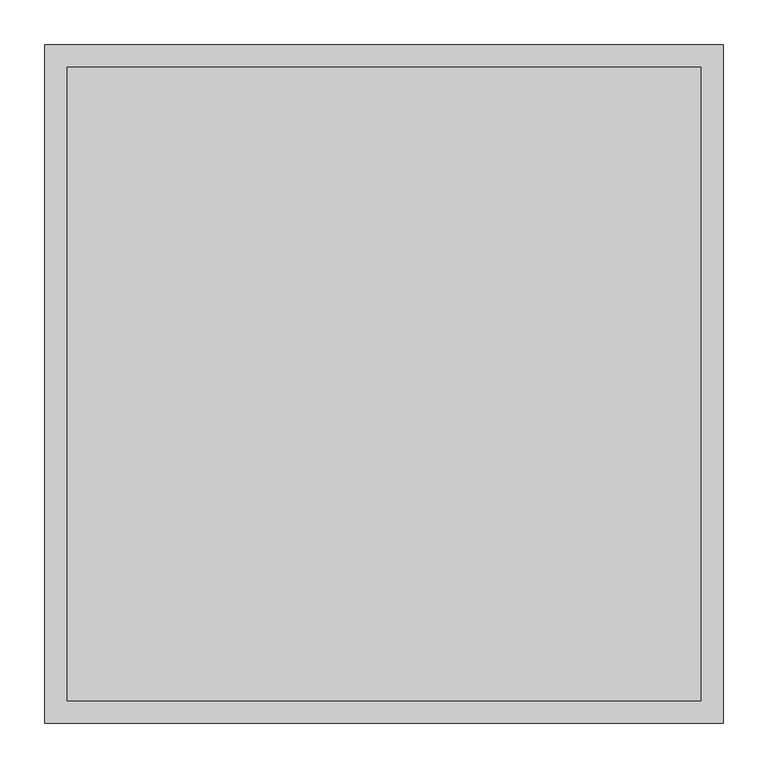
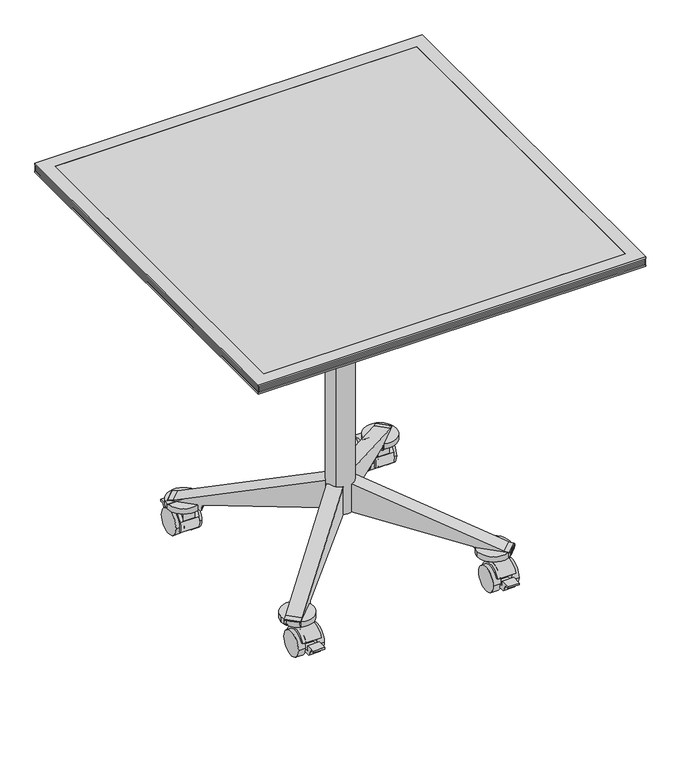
"""IFC4 building model written with IfcOpenShell, lengths in millimetres: furniture geometry, Coalesse_AM_Table_Conference_Ballet_Square : 30L x 30W - Fixed/Caster."""

from ifc_helpers import new_model, si_unit, point, frame, frame_2d, origin, place, context, project, spatial, polyline, circle_curve, trimmed, segment, composite_curve, outline, extrude, faceted_brep, source, transform, mapped, element, save


def furniture_44e23b2c(model_context):
    return source(origin(), model_context, "Body", "SolidModel", [
        extrude(outline(composite_curve([segment(polyline([(-182.4395783, 14.7931869), (-185.3508649, 16.4051117)]), True, "CONTINUOUS"), segment(trimmed(circle_curve(frame_2d((-208.7663144, 24.9907393)), 24.9398531), [point((-185.3508649, 16.4051117))], [point((-231.2540436, 35.7749086))], True, "CARTESIAN"), True, "CONTINUOUS"), segment(polyline([(-231.2540436, 35.7749086), (-234.6796249, 36.8601197)]), True, "CONTINUOUS"), segment(trimmed(circle_curve(frame_2d((-209.4353674, 26.7032164)), 27.2109394), [point((-234.6796249, 36.8601197))], [point((-197.8152878, 51.3082762))], False, "CARTESIAN"), True, "CONTINUOUS"), segment(trimmed(circle_curve(frame_2d((-207.8788336, 25.8930561)), 27.3351124), [point((-197.8152878, 51.3082762))], [point((-182.4395783, 35.8956886))], False, "CARTESIAN"), True, "CONTINUOUS"), segment(trimmed(circle_curve(frame_2d((-209.2741105, 25.3444377)), 28.8343721), [point((-182.4395783, 35.8956886))], [point((-182.4395783, 14.7931869))], False, "CARTESIAN"), True, "CONTINUOUS")], self_intersect=False)), frame((174.0984431, 0.0, 0.0), z_axis=(1.0, 0.0, 0.0), x_axis=(0.0, 1.0, 0.0)), (0.0, 0.0, 1.0), 36.0286787),
        extrude(outline(composite_curve([segment(trimmed(circle_curve(frame_2d((-208.7663144, 24.9907393)), 24.9398531), [point((-233.7061675, 24.9907393))], [point((-183.8264612, 24.9907393))], False, "CARTESIAN"), True, "CONTINUOUS"), segment(trimmed(circle_curve(frame_2d((-208.7663144, 24.9907393)), 24.9398531), [point((-183.8264612, 24.9907393))], [point((-233.7061675, 24.9907393))], False, "CARTESIAN"), True, "CONTINUOUS")], self_intersect=False)), frame((166.2968952, 0.0, 0.0), z_axis=(1.0, 0.0, 0.0), x_axis=(0.0, 1.0, 0.0)), (0.0, 0.0, 1.0), 14.6120158),
        extrude(outline(composite_curve([segment(polyline([(-197.8152878, 63.5225277), (-182.4395783, 63.5225277), (-182.4395783, 35.8956886)]), True, "CONTINUOUS"), segment(trimmed(circle_curve(frame_2d((-209.2741105, 25.3444377)), 28.8343721), [point((-182.4395783, 35.8956886))], [point((-182.4395783, 14.7931869))], False, "CARTESIAN"), True, "CONTINUOUS"), segment(polyline([(-182.4395783, 14.7931869), (-195.904393, 22.2484025), (-198.9802659, 16.6930892)]), True, "CONTINUOUS"), segment(trimmed(circle_curve(frame_2d((-208.672695, 25.0010719)), 12.7658043), [point((-198.9802659, 16.6930892))], [point((-218.9375545, 17.4117096))], False, "CARTESIAN"), True, "CONTINUOUS"), segment(polyline([(-218.9375545, 17.4117096), (-244.706152, 17.4117096), (-253.6776476, 31.7691038), (-260.4030844, 31.7691038), (-260.4030844, 35.1210973), (-241.3530844, 35.1210973), (-241.3530844, 25.0010719), (-222.0637731, 25.0010719), (-219.8001714, 32.1463658), (-234.6796249, 36.8601197)]), True, "CONTINUOUS"), segment(trimmed(circle_curve(frame_2d((-209.4353674, 26.7032164)), 27.2109394), [point((-234.6796249, 36.8601197))], [point((-197.8152878, 51.3082762))], False, "CARTESIAN"), True, "CONTINUOUS"), segment(polyline([(-197.8152878, 51.3082762), (-197.8152878, 63.5225277)]), True, "CONTINUOUS")], self_intersect=False)), frame((179.2633359, 0.0, 0.0), z_axis=(1.0, 0.0, 0.0), x_axis=(0.0, 1.0, 0.0)), (0.0, 0.0, 1.0), 22.3970625),
        extrude(outline(composite_curve([segment(trimmed(circle_curve(frame_2d((-208.7663144, 24.9907393)), 24.9398531), [point((-233.7061675, 24.9907393))], [point((-183.8264612, 24.9907393))], False, "CARTESIAN"), True, "CONTINUOUS"), segment(trimmed(circle_curve(frame_2d((-208.7663144, 24.9907393)), 24.9398531), [point((-183.8264612, 24.9907393))], [point((-233.7061675, 24.9907393))], False, "CARTESIAN"), True, "CONTINUOUS")], self_intersect=False)), frame((203.3322938, 0.0, 0.0), z_axis=(1.0, 0.0, 0.0), x_axis=(0.0, 1.0, 0.0)), (0.0, 0.0, 1.0), 13.7103424),
        extrude(outline(composite_curve([segment(polyline([(-182.4395783, 14.7931869), (-185.3508649, 16.4051117)]), True, "CONTINUOUS"), segment(trimmed(circle_curve(frame_2d((-208.7663144, 24.9907393)), 24.9398531), [point((-185.3508649, 16.4051117))], [point((-231.2540436, 35.7749086))], True, "CARTESIAN"), True, "CONTINUOUS"), segment(polyline([(-231.2540436, 35.7749086), (-234.6796249, 36.8601197)]), True, "CONTINUOUS"), segment(trimmed(circle_curve(frame_2d((-209.4353674, 26.7032164)), 27.2109394), [point((-234.6796249, 36.8601197))], [point((-197.8152878, 51.3082762))], False, "CARTESIAN"), True, "CONTINUOUS"), segment(trimmed(circle_curve(frame_2d((-207.8788336, 25.8930561)), 27.3351124), [point((-197.8152878, 51.3082762))], [point((-182.4395783, 35.8956886))], False, "CARTESIAN"), True, "CONTINUOUS"), segment(trimmed(circle_curve(frame_2d((-209.2741105, 25.3444377)), 28.8343721), [point((-182.4395783, 35.8956886))], [point((-182.4395783, 14.7931869))], False, "CARTESIAN"), True, "CONTINUOUS")], self_intersect=False)), frame((-209.7070094, 0.0, 0.0), z_axis=(1.0, 0.0, 0.0), x_axis=(0.0, 1.0, 0.0)), (0.0, 0.0, 1.0), 36.86129),
        extrude(outline(composite_curve([segment(trimmed(circle_curve(frame_2d((-208.7663144, 24.9907393)), 24.9398531), [point((-233.7061675, 24.9907393))], [point((-183.8264612, 24.9907393))], False, "CARTESIAN"), True, "CONTINUOUS"), segment(trimmed(circle_curve(frame_2d((-208.7663144, 24.9907393)), 24.9398531), [point((-183.8264612, 24.9907393))], [point((-233.7061675, 24.9907393))], False, "CARTESIAN"), True, "CONTINUOUS")], self_intersect=False)), frame((-180.908911, 0.0, 0.0), z_axis=(1.0, 0.0, 0.0), x_axis=(0.0, 1.0, 0.0)), (0.0, 0.0, 1.0), 14.6120158),
        extrude(outline(composite_curve([segment(polyline([(-197.8152878, 63.5225277), (-182.4395783, 63.5225277), (-182.4395783, 35.8956886)]), True, "CONTINUOUS"), segment(trimmed(circle_curve(frame_2d((-209.2741105, 25.3444377)), 28.8343721), [point((-182.4395783, 35.8956886))], [point((-182.4395783, 14.7931869))], False, "CARTESIAN"), True, "CONTINUOUS"), segment(polyline([(-182.4395783, 14.7931869), (-195.904393, 22.2484025), (-198.9802659, 16.6930892)]), True, "CONTINUOUS"), segment(trimmed(circle_curve(frame_2d((-208.672695, 25.0010719)), 12.7658043), [point((-198.9802659, 16.6930892))], [point((-218.9375545, 17.4117096))], False, "CARTESIAN"), True, "CONTINUOUS"), segment(polyline([(-218.9375545, 17.4117096), (-244.706152, 17.4117096), (-253.6776476, 31.7691038), (-260.4030844, 31.7691038), (-260.4030844, 35.1210973), (-241.3530844, 35.1210973), (-241.3530844, 25.0010719), (-222.0637731, 25.0010719), (-219.8001714, 32.1463658), (-234.6796249, 36.8601197)]), True, "CONTINUOUS"), segment(trimmed(circle_curve(frame_2d((-209.4353674, 26.7032164)), 27.2109394), [point((-234.6796249, 36.8601197))], [point((-197.8152878, 51.3082762))], False, "CARTESIAN"), True, "CONTINUOUS"), segment(polyline([(-197.8152878, 51.3082762), (-197.8152878, 63.5225277)]), True, "CONTINUOUS")], self_intersect=False)), frame((-203.3322938, 0.0, 0.0), z_axis=(1.0, 0.0, 0.0), x_axis=(0.0, 1.0, 0.0)), (0.0, 0.0, 1.0), 22.4233828),
        extrude(outline(composite_curve([segment(trimmed(circle_curve(frame_2d((-208.7663144, 24.9907393)), 24.9398531), [point((-233.7061675, 24.9907393))], [point((-183.8264612, 24.9907393))], False, "CARTESIAN"), True, "CONTINUOUS"), segment(trimmed(circle_curve(frame_2d((-208.7663144, 24.9907393)), 24.9398531), [point((-183.8264612, 24.9907393))], [point((-233.7061675, 24.9907393))], False, "CARTESIAN"), True, "CONTINUOUS")], self_intersect=False)), frame((-217.0426362, 0.0, 0.0), z_axis=(1.0, 0.0, 0.0), x_axis=(0.0, 1.0, 0.0)), (0.0, 0.0, 1.0), 13.7103424),
        extrude(outline(composite_curve([segment(polyline([(-37.2834365, 26.9246599), (-26.8661847, 37.3419116)]), True, "CONTINUOUS"), segment(trimmed(circle_curve(frame_2d((0.0745836, 10.4011432)), 38.1), [point((-26.8661847, 37.3419116))], [point((27.015352, 37.3419116))], False, "CARTESIAN"), True, "CONTINUOUS"), segment(polyline([(27.015352, 37.3419116), (38.9313594, 25.4259042)]), True, "CONTINUOUS"), segment(trimmed(circle_curve(frame_2d((13.4893466, -0.0161085)), 35.9804395), [point((38.9313594, 25.4259042))], [point((38.9313594, -25.4581212))], False, "CARTESIAN"), True, "CONTINUOUS"), segment(polyline([(38.9313594, -25.4581212), (27.015352, -37.3741286)]), True, "CONTINUOUS"), segment(trimmed(circle_curve(frame_2d((0.0745836, -10.4333602)), 38.1), [point((27.015352, -37.3741286))], [point((-26.8661847, -37.3741286))], False, "CARTESIAN"), True, "CONTINUOUS"), segment(polyline([(-26.8661847, -37.3741286), (-37.2834365, -26.9568769)]), True, "CONTINUOUS"), segment(trimmed(circle_curve(frame_2d((-10.3426681, -0.0161085)), 38.1), [point((-37.2834365, -26.9568769))], [point((-37.2834365, 26.9246599))], False, "CARTESIAN"), True, "CONTINUOUS")], self_intersect=False)), frame((0.0, 0.0, 607.6784119), z_axis=(0.0, 0.0, 1.0), x_axis=(1.0, 0.0, 0.0)), (0.0, 0.0, 1.0), 50.3081696),
        extrude(outline(composite_curve([segment(polyline([(-81.1409418, 49.3084633), (-49.5692956, 80.8801095)]), True, "CONTINUOUS"), segment(trimmed(circle_curve(frame_2d((0.0, 156.1108358)), 90.0931587), [point((-49.5692956, 80.8801095))], [point((49.871233, 81.0799264))], True, "CARTESIAN"), True, "CONTINUOUS"), segment(polyline([(49.871233, 81.0799264), (81.1309866, 49.8201728)]), True, "CONTINUOUS"), segment(trimmed(circle_curve(frame_2d((153.3620811, 0.0)), 87.7461145), [point((81.1309866, 49.8201728))], [point((81.7629451, -50.7241989))], True, "CARTESIAN"), True, "CONTINUOUS"), segment(polyline([(81.7629451, -50.7241989), (50.5881651, -81.8989789)]), True, "CONTINUOUS"), segment(trimmed(circle_curve(frame_2d((0.0, -154.7295322)), 88.6761069), [point((50.5881651, -81.8989789))], [point((-51.0893198, -82.2496499))], True, "CARTESIAN"), True, "CONTINUOUS"), segment(polyline([(-51.0893198, -82.2496499), (-82.3248918, -51.014078)]), True, "CONTINUOUS"), segment(trimmed(circle_curve(frame_2d((-153.9959305, 0.0)), 87.9725749), [point((-82.3248918, -51.014078))], [point((-81.1409418, 49.3084633))], True, "CARTESIAN"), True, "CONTINUOUS")], self_intersect=False)), frame((0.0, 0.0, 635.3095602), z_axis=(0.0, 0.0, 1.0), x_axis=(1.0, 0.0, 0.0)), (0.0, 0.0, 1.0), 22.6770213),
        extrude(outline(composite_curve([segment(polyline([(113.5341679, 0.0), (115.2899262, -10.0922386)]), True, "CONTINUOUS"), segment(trimmed(circle_curve(frame_2d((109.4715659, -11.1181725)), 5.9081179), [point((115.2899262, -10.0922386))], [point((112.4302147, -16.2321))], False, "CARTESIAN"), True, "CONTINUOUS"), segment(trimmed(circle_curve(frame_2d((-123.0846109, 390.8475551)), 470.2989248), [point((112.4302147, -16.2321))], [point((-41.0580682, -72.2428518))], False, "CARTESIAN"), True, "CONTINUOUS"), segment(trimmed(circle_curve(frame_2d((-123.0846109, 390.8475551)), 470.2989248), [point((-41.0580682, -72.2428518))], [point((-66.3016738, -76.0108568))], False, "CARTESIAN"), True, "CONTINUOUS"), segment(trimmed(circle_curve(frame_2d((-64.5252058, -90.6166359)), 14.7134164), [point((-66.3016738, -76.0108568))], [point((-76.8966336, -82.6521903))], True, "CARTESIAN"), True, "CONTINUOUS"), segment(trimmed(circle_curve(frame_2d((-64.5252058, -90.6166359)), 14.7134164), [point((-76.8966336, -82.6521903))], [point((-79.0128702, -93.1841644))], True, "CARTESIAN"), True, "CONTINUOUS"), segment(trimmed(circle_curve(frame_2d((-82.4193718, -93.7878704)), 3.4595829), [point((-79.0128702, -93.1841644))], [point((-81.5814971, -97.144458))], False, "CARTESIAN"), True, "CONTINUOUS"), segment(polyline([(-81.5814971, -97.144458), (-160.8938241, -97.144458)]), True, "CONTINUOUS"), segment(trimmed(circle_curve(frame_2d((-160.0559494, -93.7878704)), 3.4595829), [point((-160.8938241, -97.144458))], [point((-163.462451, -93.1841644))], False, "CARTESIAN"), True, "CONTINUOUS"), segment(trimmed(circle_curve(frame_2d((-177.9501154, -90.6166359)), 14.7134164), [point((-163.462451, -93.1841644))], [point((-165.5786876, -82.6521903))], True, "CARTESIAN"), True, "CONTINUOUS"), segment(trimmed(circle_curve(frame_2d((-177.9501154, -90.6166359)), 14.7134164), [point((-165.5786876, -82.6521903))], [point((-176.1736474, -76.0108568))], True, "CARTESIAN"), True, "CONTINUOUS"), segment(trimmed(circle_curve(frame_2d((-119.3907103, 390.8475551)), 470.2989248), [point((-176.1736474, -76.0108568))], [point((-201.417253, -72.2428518))], False, "CARTESIAN"), True, "CONTINUOUS"), segment(trimmed(circle_curve(frame_2d((-119.3907103, 390.8475551)), 470.2989248), [point((-201.417253, -72.2428518))], [point((-354.9055359, -16.2321))], False, "CARTESIAN"), True, "CONTINUOUS"), segment(trimmed(circle_curve(frame_2d((-351.9468871, -11.1181725)), 5.9081179), [point((-354.9055359, -16.2321))], [point((-357.7652474, -10.0922386))], False, "CARTESIAN"), True, "CONTINUOUS"), segment(polyline([(-357.7652474, -10.0922386), (-355.9857135, 0.0679469), (-243.7205553, 0.0679469)]), True, "CONTINUOUS"), segment(trimmed(circle_curve(frame_2d((-184.2805603, 14.4713039)), 61.1601971), [point((-243.7205553, 0.0679469))], [point((-195.8898677, -45.5769575))], True, "CARTESIAN"), True, "CONTINUOUS"), segment(trimmed(circle_curve(frame_2d((-133.6508876, 282.6884214)), 334.1135281), [point((-195.8898677, -45.5769575))], [point((-152.1077021, -50.9149293))], True, "CARTESIAN"), True, "CONTINUOUS"), segment(trimmed(circle_curve(frame_2d((-151.5110625, -39.8460589)), 11.0849389), [point((-152.1077021, -50.9149293))], [point((-142.3165925, -46.0377945))], True, "CARTESIAN"), True, "CONTINUOUS"), segment(polyline([(-142.3165925, -46.0377945), (-100.193637, -46.0377945)]), True, "CONTINUOUS"), segment(trimmed(circle_curve(frame_2d((-91.0046411, -39.8584423)), 11.0734837), [point((-100.193637, -46.0377945))], [point((-90.2559551, -50.9065873))], True, "CARTESIAN"), True, "CONTINUOUS"), segment(trimmed(circle_curve(frame_2d((-108.7814051, 282.6895624)), 334.1101367), [point((-90.2559551, -50.9065873))], [point((-46.5723215, -45.5780317))], True, "CARTESIAN"), True, "CONTINUOUS"), segment(trimmed(circle_curve(frame_2d((-58.1722458, 14.4515716)), 61.1400975), [point((-46.5723215, -45.5780317))], [point((1.2353597, 0.0))], True, "CARTESIAN"), True, "CONTINUOUS"), segment(polyline([(1.2353597, 0.0), (113.5341679, 0.0)]), True, "CONTINUOUS")], self_intersect=False)), frame((-101.3833789, 70.072565, 704.85), z_axis=(0.7071067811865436, 0.7071067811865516, 0.0), x_axis=(-0.7071067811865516, 0.7071067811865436, 0.0)), (0.0, 0.0, 1.0), 44.2801776),
        extrude(outline(composite_curve([segment(polyline([(112.2651581, 0.0), (114.044692, -10.1601855)]), True, "CONTINUOUS"), segment(trimmed(circle_curve(frame_2d((108.2263318, -11.1861194)), 5.9081179), [point((114.044692, -10.1601855))], [point((111.1849806, -16.3000469))], False, "CARTESIAN"), True, "CONTINUOUS"), segment(trimmed(circle_curve(frame_2d((-124.3298451, 390.7796082)), 470.2989248), [point((111.1849806, -16.3000469))], [point((-42.3033023, -72.3107987))], False, "CARTESIAN"), True, "CONTINUOUS"), segment(trimmed(circle_curve(frame_2d((-124.3298451, 390.7796082)), 470.2989248), [point((-42.3033023, -72.3107987))], [point((-67.5469079, -76.0788037))], False, "CARTESIAN"), True, "CONTINUOUS"), segment(trimmed(circle_curve(frame_2d((-65.77044, -90.6845828)), 14.7134164), [point((-67.5469079, -76.0788037))], [point((-78.1418678, -82.7201372))], True, "CARTESIAN"), True, "CONTINUOUS"), segment(trimmed(circle_curve(frame_2d((-65.77044, -90.6845828)), 14.7134164), [point((-78.1418678, -82.7201372))], [point((-80.2581043, -93.2521113))], True, "CARTESIAN"), True, "CONTINUOUS"), segment(trimmed(circle_curve(frame_2d((-83.6646059, -93.8558173)), 3.4595829), [point((-80.2581043, -93.2521113))], [point((-82.8267313, -97.2124049))], False, "CARTESIAN"), True, "CONTINUOUS"), segment(polyline([(-82.8267313, -97.2124049), (-162.1390582, -97.2124049)]), True, "CONTINUOUS"), segment(trimmed(circle_curve(frame_2d((-161.3011835, -93.8558173)), 3.4595829), [point((-162.1390582, -97.2124049))], [point((-164.7076852, -93.2521113))], False, "CARTESIAN"), True, "CONTINUOUS"), segment(trimmed(circle_curve(frame_2d((-179.1953495, -90.6845828)), 14.7134164), [point((-164.7076852, -93.2521113))], [point((-166.8239217, -82.7201372))], True, "CARTESIAN"), True, "CONTINUOUS"), segment(trimmed(circle_curve(frame_2d((-179.1953495, -90.6845828)), 14.7134164), [point((-166.8239217, -82.7201372))], [point((-177.4188815, -76.0788037))], True, "CARTESIAN"), True, "CONTINUOUS"), segment(trimmed(circle_curve(frame_2d((-120.6359444, 390.7796082)), 470.2989248), [point((-177.4188815, -76.0788037))], [point((-202.6624871, -72.3107987))], False, "CARTESIAN"), True, "CONTINUOUS"), segment(trimmed(circle_curve(frame_2d((-120.6359444, 390.7796082)), 470.2989248), [point((-202.6624871, -72.3107987))], [point((-356.1507701, -16.3000469))], False, "CARTESIAN"), True, "CONTINUOUS"), segment(trimmed(circle_curve(frame_2d((-353.1921213, -11.1861194)), 5.9081179), [point((-356.1507701, -16.3000469))], [point((-359.0104815, -10.1601855))], False, "CARTESIAN"), True, "CONTINUOUS"), segment(polyline([(-359.0104815, -10.1601855), (-357.2547233, -0.0679469), (-244.955915, -0.0679469)]), True, "CONTINUOUS"), segment(trimmed(circle_curve(frame_2d((-185.5483095, 14.3836247)), 61.1400975), [point((-244.955915, -0.0679469))], [point((-197.1482338, -45.6459786))], True, "CARTESIAN"), True, "CONTINUOUS"), segment(trimmed(circle_curve(frame_2d((-134.9391503, 282.6216155)), 334.1101367), [point((-197.1482338, -45.6459786))], [point((-153.4646002, -50.9745342))], True, "CARTESIAN"), True, "CONTINUOUS"), segment(trimmed(circle_curve(frame_2d((-152.7159142, -39.9263892)), 11.0734837), [point((-153.4646002, -50.9745342))], [point((-143.5269184, -46.1057414))], True, "CARTESIAN"), True, "CONTINUOUS"), segment(polyline([(-143.5269184, -46.1057414), (-101.4039629, -46.1057414)]), True, "CONTINUOUS"), segment(trimmed(circle_curve(frame_2d((-92.2094928, -39.9140058)), 11.0849389), [point((-101.4039629, -46.1057414))], [point((-91.6128533, -50.9828762))], True, "CARTESIAN"), True, "CONTINUOUS"), segment(trimmed(circle_curve(frame_2d((-110.0696677, 282.6204745)), 334.1135281), [point((-91.6128533, -50.9828762))], [point((-47.8306877, -45.6449044))], True, "CARTESIAN"), True, "CONTINUOUS"), segment(trimmed(circle_curve(frame_2d((-59.4399951, 14.403357)), 61.1601971), [point((-47.8306877, -45.6449044))], [point((0.0, 0.0))], True, "CARTESIAN"), True, "CONTINUOUS"), segment(polyline([(0.0, 0.0), (112.2651581, 0.0)]), True, "CONTINUOUS")], self_intersect=False)), frame((-70.9530785, -102.2638924, 704.9179469), z_axis=(-0.707106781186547, 0.7071067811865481, 0.0), x_axis=(-0.7071067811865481, -0.707106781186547, 0.0)), (0.0, 0.0, 1.0), 44.2801776),
        extrude(outline(composite_curve([segment(trimmed(circle_curve(frame_2d((209.2741105, 25.3444377)), 28.8343721), [point((182.4395783, 14.7931869))], [point((182.4395783, 35.8956886))], False, "CARTESIAN"), True, "CONTINUOUS"), segment(trimmed(circle_curve(frame_2d((207.8788336, 25.8930561)), 27.3351124), [point((182.4395783, 35.8956886))], [point((197.8152878, 51.3082762))], False, "CARTESIAN"), True, "CONTINUOUS"), segment(trimmed(circle_curve(frame_2d((209.4353674, 26.7032164)), 27.2109394), [point((197.8152878, 51.3082762))], [point((234.6796249, 36.8601197))], False, "CARTESIAN"), True, "CONTINUOUS"), segment(polyline([(234.6796249, 36.8601197), (231.2540436, 35.7749086)]), True, "CONTINUOUS"), segment(trimmed(circle_curve(frame_2d((208.7663144, 24.9907393)), 24.9398531), [point((231.2540436, 35.7749086))], [point((185.3508649, 16.4051117))], True, "CARTESIAN"), True, "CONTINUOUS"), segment(polyline([(185.3508649, 16.4051117), (182.4395783, 14.7931869)]), True, "CONTINUOUS")], self_intersect=False)), frame((174.0984431, 0.0, 0.0), z_axis=(1.0, 0.0, 0.0), x_axis=(0.0, 1.0, 0.0)), (0.0, 0.0, 1.0), 36.0286787),
        extrude(outline(composite_curve([segment(trimmed(circle_curve(frame_2d((208.7663144, 24.9907393)), 24.9398531), [point((233.7061675, 24.9907393))], [point((183.8264612, 24.9907393))], False, "CARTESIAN"), True, "CONTINUOUS"), segment(trimmed(circle_curve(frame_2d((208.7663144, 24.9907393)), 24.9398531), [point((183.8264612, 24.9907393))], [point((233.7061675, 24.9907393))], False, "CARTESIAN"), True, "CONTINUOUS")], self_intersect=False)), frame((166.2968952, 0.0, 0.0), z_axis=(1.0, 0.0, 0.0), x_axis=(0.0, 1.0, 0.0)), (0.0, 0.0, 1.0), 14.6120158),
        extrude(outline(composite_curve([segment(polyline([(197.8152878, 63.5225277), (197.8152878, 51.3082762)]), True, "CONTINUOUS"), segment(trimmed(circle_curve(frame_2d((209.4353674, 26.7032164)), 27.2109394), [point((197.8152878, 51.3082762))], [point((234.6796249, 36.8601197))], False, "CARTESIAN"), True, "CONTINUOUS"), segment(polyline([(234.6796249, 36.8601197), (219.8001714, 32.1463658), (222.0637731, 25.0010719), (241.3530844, 25.0010719), (241.3530844, 35.1210973), (260.4030844, 35.1210973), (260.4030844, 31.7691038), (253.6776476, 31.7691038), (244.706152, 17.4117096), (218.9375545, 17.4117096)]), True, "CONTINUOUS"), segment(trimmed(circle_curve(frame_2d((208.672695, 25.0010719)), 12.7658043), [point((218.9375545, 17.4117096))], [point((198.9802659, 16.6930892))], False, "CARTESIAN"), True, "CONTINUOUS"), segment(polyline([(198.9802659, 16.6930892), (195.904393, 22.2484025), (182.4395783, 14.7931869)]), True, "CONTINUOUS"), segment(trimmed(circle_curve(frame_2d((209.2741105, 25.3444377)), 28.8343721), [point((182.4395783, 14.7931869))], [point((182.4395783, 35.8956886))], False, "CARTESIAN"), True, "CONTINUOUS"), segment(polyline([(182.4395783, 35.8956886), (182.4395783, 63.5225277), (197.8152878, 63.5225277)]), True, "CONTINUOUS")], self_intersect=False)), frame((179.2633359, 0.0, 0.0), z_axis=(1.0, 0.0, 0.0), x_axis=(0.0, 1.0, 0.0)), (0.0, 0.0, 1.0), 22.3970625),
        extrude(outline(composite_curve([segment(trimmed(circle_curve(frame_2d((208.7663144, 24.9907393)), 24.9398531), [point((233.7061675, 24.9907393))], [point((183.8264612, 24.9907393))], False, "CARTESIAN"), True, "CONTINUOUS"), segment(trimmed(circle_curve(frame_2d((208.7663144, 24.9907393)), 24.9398531), [point((183.8264612, 24.9907393))], [point((233.7061675, 24.9907393))], False, "CARTESIAN"), True, "CONTINUOUS")], self_intersect=False)), frame((203.3322938, 0.0, 0.0), z_axis=(1.0, 0.0, 0.0), x_axis=(0.0, 1.0, 0.0)), (0.0, 0.0, 1.0), 13.7103424),
        extrude(outline(composite_curve([segment(trimmed(circle_curve(frame_2d((209.2741105, 25.3444377)), 28.8343721), [point((182.4395783, 14.7931869))], [point((182.4395783, 35.8956886))], False, "CARTESIAN"), True, "CONTINUOUS"), segment(trimmed(circle_curve(frame_2d((207.8788336, 25.8930561)), 27.3351124), [point((182.4395783, 35.8956886))], [point((197.8152878, 51.3082762))], False, "CARTESIAN"), True, "CONTINUOUS"), segment(trimmed(circle_curve(frame_2d((209.4353674, 26.7032164)), 27.2109394), [point((197.8152878, 51.3082762))], [point((234.6796249, 36.8601197))], False, "CARTESIAN"), True, "CONTINUOUS"), segment(polyline([(234.6796249, 36.8601197), (231.2540436, 35.7749086)]), True, "CONTINUOUS"), segment(trimmed(circle_curve(frame_2d((208.7663144, 24.9907393)), 24.9398531), [point((231.2540436, 35.7749086))], [point((185.3508649, 16.4051117))], True, "CARTESIAN"), True, "CONTINUOUS"), segment(polyline([(185.3508649, 16.4051117), (182.4395783, 14.7931869)]), True, "CONTINUOUS")], self_intersect=False)), frame((-209.7070094, 0.0, 0.0), z_axis=(1.0, 0.0, 0.0), x_axis=(0.0, 1.0, 0.0)), (0.0, 0.0, 1.0), 36.86129),
        extrude(outline(composite_curve([segment(trimmed(circle_curve(frame_2d((208.7663144, 24.9907393)), 24.9398531), [point((233.7061675, 24.9907393))], [point((183.8264612, 24.9907393))], False, "CARTESIAN"), True, "CONTINUOUS"), segment(trimmed(circle_curve(frame_2d((208.7663144, 24.9907393)), 24.9398531), [point((183.8264612, 24.9907393))], [point((233.7061675, 24.9907393))], False, "CARTESIAN"), True, "CONTINUOUS")], self_intersect=False)), frame((-180.908911, 0.0, 0.0), z_axis=(1.0, 0.0, 0.0), x_axis=(0.0, 1.0, 0.0)), (0.0, 0.0, 1.0), 14.6120158),
        extrude(outline(composite_curve([segment(polyline([(197.8152878, 63.5225277), (197.8152878, 51.3082762)]), True, "CONTINUOUS"), segment(trimmed(circle_curve(frame_2d((209.4353674, 26.7032164)), 27.2109394), [point((197.8152878, 51.3082762))], [point((234.6796249, 36.8601197))], False, "CARTESIAN"), True, "CONTINUOUS"), segment(polyline([(234.6796249, 36.8601197), (219.8001714, 32.1463658), (222.0637731, 25.0010719), (241.3530844, 25.0010719), (241.3530844, 35.1210973), (260.4030844, 35.1210973), (260.4030844, 31.7691038), (253.6776476, 31.7691038), (244.706152, 17.4117096), (218.9375545, 17.4117096)]), True, "CONTINUOUS"), segment(trimmed(circle_curve(frame_2d((208.672695, 25.0010719)), 12.7658043), [point((218.9375545, 17.4117096))], [point((198.9802659, 16.6930892))], False, "CARTESIAN"), True, "CONTINUOUS"), segment(polyline([(198.9802659, 16.6930892), (195.904393, 22.2484025), (182.4395783, 14.7931869)]), True, "CONTINUOUS"), segment(trimmed(circle_curve(frame_2d((209.2741105, 25.3444377)), 28.8343721), [point((182.4395783, 14.7931869))], [point((182.4395783, 35.8956886))], False, "CARTESIAN"), True, "CONTINUOUS"), segment(polyline([(182.4395783, 35.8956886), (182.4395783, 63.5225277), (197.8152878, 63.5225277)]), True, "CONTINUOUS")], self_intersect=False)), frame((-203.3322938, 0.0, 0.0), z_axis=(1.0, 0.0, 0.0), x_axis=(0.0, 1.0, 0.0)), (0.0, 0.0, 1.0), 22.4233828),
        extrude(outline(composite_curve([segment(trimmed(circle_curve(frame_2d((208.7663144, 24.9907393)), 24.9398531), [point((233.7061675, 24.9907393))], [point((183.8264612, 24.9907393))], False, "CARTESIAN"), True, "CONTINUOUS"), segment(trimmed(circle_curve(frame_2d((208.7663144, 24.9907393)), 24.9398531), [point((183.8264612, 24.9907393))], [point((233.7061675, 24.9907393))], False, "CARTESIAN"), True, "CONTINUOUS")], self_intersect=False)), frame((-217.0426362, 0.0, 0.0), z_axis=(1.0, 0.0, 0.0), x_axis=(0.0, 1.0, 0.0)), (0.0, 0.0, 1.0), 13.7103424),
        extrude(outline(composite_curve([segment(trimmed(circle_curve(frame_2d((-194.715793, 197.3207687)), 31.75), [point((-226.465793, 197.3207687))], [point((-162.965793, 197.3207687))], False, "CARTESIAN"), True, "CONTINUOUS"), segment(trimmed(circle_curve(frame_2d((-194.715793, 197.3207687)), 31.75), [point((-162.965793, 197.3207687))], [point((-226.465793, 197.3207687))], False, "CARTESIAN"), True, "CONTINUOUS")], self_intersect=False)), frame((0.0, 0.0, 62.0397209), z_axis=(0.0, 0.0, 1.0), x_axis=(1.0, 0.0, 0.0)), (0.0, 0.0, 1.0), 10.7840801),
        extrude(outline(composite_curve([segment(trimmed(circle_curve(frame_2d((191.7194605, 196.5270187)), 31.75), [point((159.9694605, 196.5270187))], [point((223.4694605, 196.5270187))], False, "CARTESIAN"), True, "CONTINUOUS"), segment(trimmed(circle_curve(frame_2d((191.7194605, 196.5270187)), 31.75), [point((223.4694605, 196.5270187))], [point((159.9694605, 196.5270187))], False, "CARTESIAN"), True, "CONTINUOUS")], self_intersect=False)), frame((0.0, 0.0, 62.0397209), z_axis=(0.0, 0.0, 1.0), x_axis=(1.0, 0.0, 0.0)), (0.0, 0.0, 1.0), 10.7840801),
        extrude(outline(composite_curve([segment(trimmed(circle_curve(frame_2d((-194.715793, -191.2787692)), 31.75), [point((-226.465793, -191.2787692))], [point((-162.965793, -191.2787692))], False, "CARTESIAN"), True, "CONTINUOUS"), segment(trimmed(circle_curve(frame_2d((-194.715793, -191.2787692)), 31.75), [point((-162.965793, -191.2787692))], [point((-226.465793, -191.2787692))], False, "CARTESIAN"), True, "CONTINUOUS")], self_intersect=False)), frame((0.0, 0.0, 62.0397209), z_axis=(0.0, 0.0, 1.0), x_axis=(1.0, 0.0, 0.0)), (0.0, 0.0, 1.0), 10.7840801),
        extrude(outline(composite_curve([segment(trimmed(circle_curve(frame_2d((191.7194605, -190.4850192)), 31.75), [point((159.9694605, -190.4850192))], [point((223.4694605, -190.4850192))], False, "CARTESIAN"), True, "CONTINUOUS"), segment(trimmed(circle_curve(frame_2d((191.7194605, -190.4850192)), 31.75), [point((223.4694605, -190.4850192))], [point((159.9694605, -190.4850192))], False, "CARTESIAN"), True, "CONTINUOUS")], self_intersect=False)), frame((0.0, 0.0, 62.0397209), z_axis=(0.0, 0.0, 1.0), x_axis=(1.0, 0.0, 0.0)), (0.0, 0.0, 1.0), 10.7840801),
        extrude(outline(composite_curve([segment(polyline([(-57.749273, 0.0), (0.0, 0.0), (-90.9931074, -269.8641919), (-92.3030079, -279.1846177)]), True, "CONTINUOUS"), segment(trimmed(circle_curve(frame_2d((-93.9206951, -278.9572666)), 1.6335852), [point((-92.3030079, -279.1846177))], [point((-93.8206014, -280.5877823))], False, "CARTESIAN"), True, "CONTINUOUS"), segment(trimmed(circle_curve(frame_2d((-95.8523928, -247.4901147)), 33.1599725), [point((-93.8206014, -280.5877823))], [point((-101.682402, -280.1335639))], False, "CARTESIAN"), True, "CONTINUOUS"), segment(trimmed(circle_curve(frame_2d((-101.2796868, -277.8786768)), 2.2905666), [point((-101.682402, -280.1335639))], [point((-103.5674671, -277.7657306))], False, "CARTESIAN"), True, "CONTINUOUS"), segment(polyline([(-103.5674671, -277.7657306), (-103.5674671, -222.4322812)]), True, "CONTINUOUS"), segment(trimmed(circle_curve(frame_2d((-100.6154331, -221.9840334)), 2.9858719), [point((-103.5674671, -222.4322812))], [point((-100.2998684, -219.0148838))], False, "CARTESIAN"), True, "CONTINUOUS"), segment(trimmed(circle_curve(frame_2d((-98.3053249, -200.2482144)), 18.872363), [point((-100.2998684, -219.0148838))], [point((-94.5016021, -218.7332835))], True, "CARTESIAN"), True, "CONTINUOUS"), segment(trimmed(circle_curve(frame_2d((-95.1495986, -215.5841949)), 3.2150673), [point((-94.5016021, -218.7332835))], [point((-91.9741141, -216.0871422))], True, "CARTESIAN"), True, "CONTINUOUS"), segment(polyline([(-91.9741141, -216.0871422), (-57.749273, 0.0)]), True, "CONTINUOUS")], self_intersect=False)), frame((-23.5273141, 7.7834997, 165.607188), z_axis=(0.7071067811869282, 0.707106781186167, 0.0), x_axis=(0.0, 0.0, 1.0)), (0.0, 0.0, 1.0), 29.2174476),
        extrude(outline(composite_curve([segment(polyline([(-57.749273, 44.2801775), (-91.9741141, 260.3673198)]), True, "CONTINUOUS"), segment(trimmed(circle_curve(frame_2d((-95.1495986, 259.8643724)), 3.2150673), [point((-91.9741141, 260.3673198))], [point((-94.5016021, 263.013461))], True, "CARTESIAN"), True, "CONTINUOUS"), segment(trimmed(circle_curve(frame_2d((-98.3053249, 244.5283919)), 18.872363), [point((-94.5016021, 263.013461))], [point((-100.2998684, 263.2950613))], True, "CARTESIAN"), True, "CONTINUOUS"), segment(trimmed(circle_curve(frame_2d((-100.6154331, 266.2642109)), 2.9858719), [point((-100.2998684, 263.2950613))], [point((-103.5674671, 266.7124587))], False, "CARTESIAN"), True, "CONTINUOUS"), segment(polyline([(-103.5674671, 266.7124587), (-103.5674671, 322.0459081)]), True, "CONTINUOUS"), segment(trimmed(circle_curve(frame_2d((-101.2796868, 322.1588543)), 2.2905666), [point((-103.5674671, 322.0459081))], [point((-101.682402, 324.4137415))], False, "CARTESIAN"), True, "CONTINUOUS"), segment(trimmed(circle_curve(frame_2d((-95.8523928, 291.7702923)), 33.1599725), [point((-101.682402, 324.4137415))], [point((-93.8206014, 324.8679598))], False, "CARTESIAN"), True, "CONTINUOUS"), segment(trimmed(circle_curve(frame_2d((-93.9206951, 323.2374442)), 1.6335852), [point((-93.8206014, 324.8679598))], [point((-92.3030079, 323.4647953))], False, "CARTESIAN"), True, "CONTINUOUS"), segment(polyline([(-92.3030079, 323.4647953), (-90.9931074, 314.1443694), (0.0, 44.2801775), (-57.749273, 44.2801775)]), True, "CONTINUOUS")], self_intersect=False)), frame((-23.5273141, 7.7834997, 165.607188), z_axis=(0.7071067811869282, 0.707106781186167, 0.0), x_axis=(0.0, 0.0, 1.0)), (0.0, 0.0, 1.0), 29.2174476),
        extrude(outline(composite_curve([segment(polyline([(-57.749273, 0.0), (0.0, 0.0), (-90.9931074, -269.8641919), (-92.3030079, -279.1846177)]), True, "CONTINUOUS"), segment(trimmed(circle_curve(frame_2d((-93.9206951, -278.9572666)), 1.6335852), [point((-92.3030079, -279.1846177))], [point((-93.8206014, -280.5877823))], False, "CARTESIAN"), True, "CONTINUOUS"), segment(trimmed(circle_curve(frame_2d((-95.8523928, -247.4901147)), 33.1599725), [point((-93.8206014, -280.5877823))], [point((-101.682402, -280.1335639))], False, "CARTESIAN"), True, "CONTINUOUS"), segment(trimmed(circle_curve(frame_2d((-101.2796868, -277.8786768)), 2.2905666), [point((-101.682402, -280.1335639))], [point((-103.5674671, -277.7657306))], False, "CARTESIAN"), True, "CONTINUOUS"), segment(polyline([(-103.5674671, -277.7657306), (-103.5674671, -222.4322812)]), True, "CONTINUOUS"), segment(trimmed(circle_curve(frame_2d((-100.6154331, -221.9840334)), 2.9858719), [point((-103.5674671, -222.4322812))], [point((-100.2998684, -219.0148838))], False, "CARTESIAN"), True, "CONTINUOUS"), segment(trimmed(circle_curve(frame_2d((-98.3053249, -200.2482144)), 18.872363), [point((-100.2998684, -219.0148838))], [point((-94.5016021, -218.7332835))], True, "CARTESIAN"), True, "CONTINUOUS"), segment(trimmed(circle_curve(frame_2d((-95.1495986, -215.5841949)), 3.2150673), [point((-94.5016021, -218.7332835))], [point((-91.9741141, -216.0871422))], True, "CARTESIAN"), True, "CONTINUOUS"), segment(polyline([(-91.9741141, -216.0871422), (-57.749273, 0.0)]), True, "CONTINUOUS")], self_intersect=False)), frame((-7.7834997, -23.5273141, 165.607188), z_axis=(-0.7071067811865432, 0.7071067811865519, 0.0), x_axis=(0.0, 0.0, 1.0)), (0.0, 0.0, 1.0), 29.2174476),
        extrude(outline(composite_curve([segment(polyline([(-57.749273, 44.2801775), (-91.9741141, 260.3673198)]), True, "CONTINUOUS"), segment(trimmed(circle_curve(frame_2d((-95.1495986, 259.8643724)), 3.2150673), [point((-91.9741141, 260.3673198))], [point((-94.5016021, 263.013461))], True, "CARTESIAN"), True, "CONTINUOUS"), segment(trimmed(circle_curve(frame_2d((-98.3053249, 244.5283919)), 18.872363), [point((-94.5016021, 263.013461))], [point((-100.2998684, 263.2950613))], True, "CARTESIAN"), True, "CONTINUOUS"), segment(trimmed(circle_curve(frame_2d((-100.6154331, 266.2642109)), 2.9858719), [point((-100.2998684, 263.2950613))], [point((-103.5674671, 266.7124587))], False, "CARTESIAN"), True, "CONTINUOUS"), segment(polyline([(-103.5674671, 266.7124587), (-103.5674671, 322.0459081)]), True, "CONTINUOUS"), segment(trimmed(circle_curve(frame_2d((-101.2796868, 322.1588543)), 2.2905666), [point((-103.5674671, 322.0459081))], [point((-101.682402, 324.4137415))], False, "CARTESIAN"), True, "CONTINUOUS"), segment(trimmed(circle_curve(frame_2d((-95.8523928, 291.7702923)), 33.1599725), [point((-101.682402, 324.4137415))], [point((-93.8206014, 324.8679598))], False, "CARTESIAN"), True, "CONTINUOUS"), segment(trimmed(circle_curve(frame_2d((-93.9206951, 323.2374442)), 1.6335852), [point((-93.8206014, 324.8679598))], [point((-92.3030079, 323.4647953))], False, "CARTESIAN"), True, "CONTINUOUS"), segment(polyline([(-92.3030079, 323.4647953), (-90.9931074, 314.1443694), (0.0, 44.2801775), (-57.749273, 44.2801775)]), True, "CONTINUOUS")], self_intersect=False)), frame((-7.7834997, -23.5273141, 165.607188), z_axis=(-0.7071067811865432, 0.7071067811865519, 0.0), x_axis=(0.0, 0.0, 1.0)), (0.0, 0.0, 1.0), 29.2174476),
        extrude(outline(composite_curve([segment(trimmed(circle_curve(frame_2d((1.04e-05, -1.04e-05)), 25.3999999), [point((-17.9605018, -17.9605225))], [point((17.9605225, 17.9605018))], False, "CARTESIAN"), True, "CONTINUOUS"), segment(trimmed(circle_curve(frame_2d((1.04e-05, -1.04e-05)), 25.3999999), [point((17.9605225, 17.9605018))], [point((-17.9605018, -17.9605225))], False, "CARTESIAN"), True, "CONTINUOUS")], self_intersect=False)), frame((0.0, 0.0, 107.857915), z_axis=(0.0, 0.0, 1.0), x_axis=(1.0, 0.0, 0.0)), (0.0, 0.0, 1.0), 499.8204968),
        faceted_brep([(-381.0003633, 381.0, 704.85), (-355.6003876, 355.6000242, 698.5000242), (-355.6003876, -355.5999516, 698.5000242), (-381.0003633, -380.9999273, 704.85), (-381.0003633, 381.0, 708.0250242), (-381.0003633, -380.9999273, 708.0250242), (-377.8253755, 377.8250121, 709.6125), (-377.8253755, -377.8249394, 709.6125), (-381.0003633, 381.0, 711.1999758), (-381.0003633, -380.9999273, 711.1999758), (-377.8253755, 377.8250121, 712.7875242), (-377.8253755, -377.8249394, 712.7875242), (-381.0003633, 381.0, 714.375), (-381.0003633, -380.9999273, 714.375), (-377.8253755, 377.8250121, 715.9624758), (-377.8253755, -377.8249394, 715.9624758), (-381.0003633, 381.0, 717.5500242), (-381.0003633, -380.9999273, 717.5500242), (-377.8253755, 377.8250121, 719.1375), (-377.8253755, -377.8249394, 719.1375), (-381.0003633, 381.0, 720.7249758), (-381.0003633, -380.9999273, 720.7249758), (-381.0003633, 381.0, 723.9), (-381.0003633, -380.9999273, 723.9), (-355.6003876, 355.6000242, 723.9), (-355.6003876, -355.5999516, 723.9), (355.5998062, -355.5999516, 698.5000242), (380.999782, -380.9999273, 704.85), (380.999782, -380.9999273, 708.0250242), (377.8247941, -377.8249394, 709.6125), (380.999782, -380.9999273, 711.1999758), (377.8247941, -377.8249394, 712.7875242), (380.999782, -380.9999273, 714.375), (377.8247941, -377.8249394, 715.9624758), (380.999782, -380.9999273, 717.5500242), (377.8247941, -377.8249394, 719.1375), (380.999782, -380.9999273, 720.7249758), (380.999782, -380.9999273, 723.9), (355.5998062, -355.5999516, 723.9), (355.5998062, 355.6000242, 698.5000242), (380.999782, 381.0, 704.85), (380.999782, 381.0, 708.0250242), (377.8247941, 377.8250121, 709.6125), (380.999782, 381.0, 711.1999758), (377.8247941, 377.8250121, 712.7875242), (380.999782, 381.0, 714.375), (377.8247941, 377.8250121, 715.9624758), (380.999782, 381.0, 717.5500242), (377.8247941, 377.8250121, 719.1375), (380.999782, 381.0, 720.7249758), (380.999782, 381.0, 723.9), (355.5998062, 355.6000242, 723.9)], [[[0, 1, 2, 3]], [[4, 0, 3, 5]], [[6, 4, 5, 7]], [[8, 6, 7, 9]], [[10, 8, 9, 11]], [[12, 10, 11, 13]], [[14, 12, 13, 15]], [[16, 14, 15, 17]], [[18, 16, 17, 19]], [[20, 18, 19, 21]], [[22, 20, 21, 23]], [[1, 24, 25, 2]], [[3, 2, 26, 27]], [[5, 3, 27, 28]], [[7, 5, 28, 29]], [[9, 7, 29, 30]], [[11, 9, 30, 31]], [[13, 11, 31, 32]], [[15, 13, 32, 33]], [[17, 15, 33, 34]], [[19, 17, 34, 35]], [[21, 19, 35, 36]], [[23, 21, 36, 37]], [[2, 25, 38, 26]], [[27, 26, 39, 40]], [[28, 27, 40, 41]], [[29, 28, 41, 42]], [[30, 29, 42, 43]], [[31, 30, 43, 44]], [[32, 31, 44, 45]], [[33, 32, 45, 46]], [[34, 33, 46, 47]], [[35, 34, 47, 48]], [[36, 35, 48, 49]], [[37, 36, 49, 50]], [[26, 38, 51, 39]], [[40, 39, 1, 0]], [[41, 40, 0, 4]], [[42, 41, 4, 6]], [[43, 42, 6, 8]], [[44, 43, 8, 10]], [[45, 44, 10, 12]], [[46, 45, 12, 14]], [[47, 46, 14, 16]], [[48, 47, 16, 18]], [[49, 48, 18, 20]], [[50, 49, 20, 22]], [[23, 37, 50, 22], [24, 51, 38, 25]], [[39, 51, 24, 1]]]),
        extrude(outline(polyline([(355.5998062, 355.6000242), (355.5998062, -355.5999516), (-355.6003876, -355.5999516), (-355.6003876, 355.6000242), (355.5998062, 355.6000242)])), frame((0.0, 0.0, 704.85), z_axis=(0.0, 0.0, 1.0), x_axis=(1.0, 0.0, 0.0)), (0.0, 0.0, 1.0), 19.05),
    ])


if __name__ == "__main__":
    model = new_model("IFC4")
    model_context = context("Model", 3, world=origin())
    ifc_project = project(units=[si_unit("LENGTHUNIT", "METRE", prefix="MILLI")], contexts=[model_context])
    site = spatial("IfcSite", under=ifc_project)
    building = spatial("IfcBuilding", under=site)
    placement = place(None, origin())
    furniture_shape = furniture_44e23b2c(model_context)
    element("IfcFurniture", 1, ObjectType="Coalesse_AM_Table_Conference_Ballet_Square : 30L x 30W - Fixed/Caster", at=placement, inside=building, context=model_context, shape_type="MappedRepresentation", body=[
        mapped(furniture_shape, transform((0.0, 0.0, 0.0), x_axis=(1.0, 0.0, 0.0), y_axis=(0.0, 1.0, 0.0), z_axis=(0.0, 0.0, 1.0))),
    ])
    save(model, "model.ifc")
